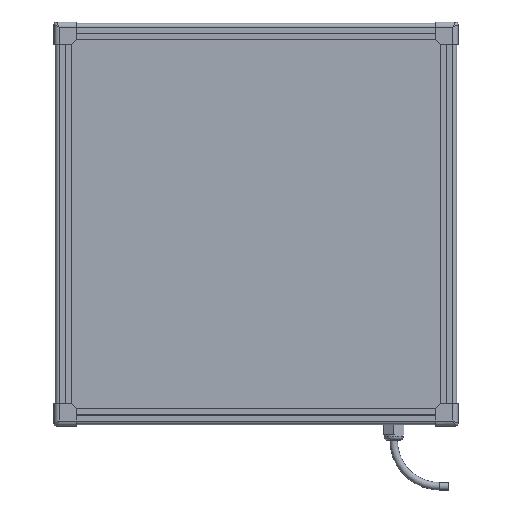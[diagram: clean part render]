
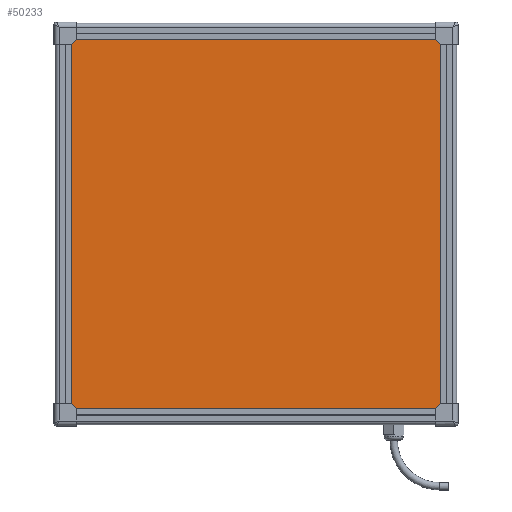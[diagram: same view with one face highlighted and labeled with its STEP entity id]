
A CAD part, front view. The second image highlights one B-rep face of the part: STEP entity #50233.
In plain terms, the highlighted planar face has unit normal (0, -1, 0).
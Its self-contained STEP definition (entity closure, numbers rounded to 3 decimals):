
#415 = EDGE_LOOP ( 'NONE', ( #55227, #3556, #6203, #28082 ) ) ;
#2001 = VERTEX_POINT ( 'NONE', #33527 ) ;
#2056 = DIRECTION ( 'NONE',  ( 0., 0., -1. ) ) ;
#2896 = VECTOR ( 'NONE', #34491, 1000. ) ;
#3474 = VERTEX_POINT ( 'NONE', #32381 ) ;
#3556 = ORIENTED_EDGE ( 'NONE', *, *, #16837, .F. ) ;
#3958 = CARTESIAN_POINT ( 'NONE',  ( -212.25, -17.3, 212.25 ) ) ;
#6203 = ORIENTED_EDGE ( 'NONE', *, *, #15673, .F. ) ;
#6944 = VECTOR ( 'NONE', #2056, 1000. ) ;
#7501 = CARTESIAN_POINT ( 'NONE',  ( 212.25, -17.3, 212.25 ) ) ;
#8481 = LINE ( 'NONE', #7501, #6944 ) ;
#10189 = DIRECTION ( 'NONE',  ( 1., 0., 0. ) ) ;
#12332 = VECTOR ( 'NONE', #61765, 1000. ) ;
#15673 = EDGE_CURVE ( 'NONE', #26813, #42269, #57317, .T. ) ;
#16027 = DIRECTION ( 'NONE',  ( 0., 0., -1. ) ) ;
#16555 = CARTESIAN_POINT ( 'NONE',  ( -212.25, -17.3, 212.25 ) ) ;
#16837 = EDGE_CURVE ( 'NONE', #42269, #3474, #60754, .T. ) ;
#19096 = CARTESIAN_POINT ( 'NONE',  ( -212.25, -17.3, -212.25 ) ) ;
#23246 = LINE ( 'NONE', #44327, #2896 ) ;
#26813 = VERTEX_POINT ( 'NONE', #19096 ) ;
#28082 = ORIENTED_EDGE ( 'NONE', *, *, #39684, .F. ) ;
#32381 = CARTESIAN_POINT ( 'NONE',  ( 212.25, -17.3, 212.25 ) ) ;
#33527 = CARTESIAN_POINT ( 'NONE',  ( 212.25, -17.3, -212.25 ) ) ;
#34491 = DIRECTION ( 'NONE',  ( -1., 0., 0. ) ) ;
#36148 = EDGE_CURVE ( 'NONE', #3474, #2001, #8481, .T. ) ;
#39684 = EDGE_CURVE ( 'NONE', #2001, #26813, #23246, .T. ) ;
#39885 = PLANE ( 'NONE',  #40616 ) ;
#40616 = AXIS2_PLACEMENT_3D ( 'NONE', #54296, #44682, #16027 ) ;
#42198 = FACE_OUTER_BOUND ( 'NONE', #415, .T. ) ;
#42269 = VERTEX_POINT ( 'NONE', #16555 ) ;
#44327 = CARTESIAN_POINT ( 'NONE',  ( -212.25, -17.3, -212.25 ) ) ;
#44682 = DIRECTION ( 'NONE',  ( 0., -1., 0. ) ) ;
#50233 = ADVANCED_FACE ( 'NONE', ( #42198 ), #39885, .T. ) ;
#54296 = CARTESIAN_POINT ( 'NONE',  ( 0., -17.3, 0. ) ) ;
#55227 = ORIENTED_EDGE ( 'NONE', *, *, #36148, .F. ) ;
#57317 = LINE ( 'NONE', #3958, #12332 ) ;
#58525 = VECTOR ( 'NONE', #10189, 1000. ) ;
#60754 = LINE ( 'NONE', #61334, #58525 ) ;
#61334 = CARTESIAN_POINT ( 'NONE',  ( -212.25, -17.3, 212.25 ) ) ;
#61765 = DIRECTION ( 'NONE',  ( 0., 0., 1. ) ) ;
